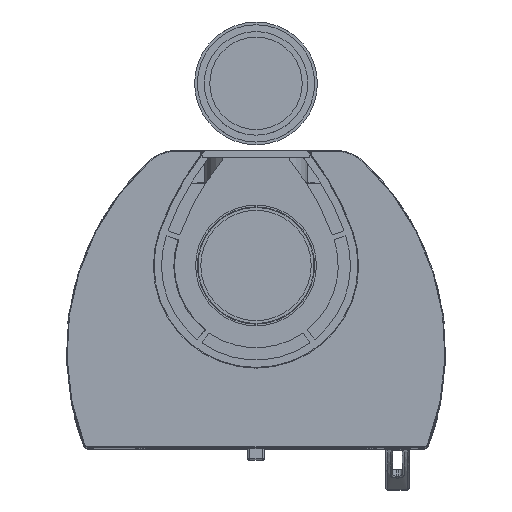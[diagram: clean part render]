
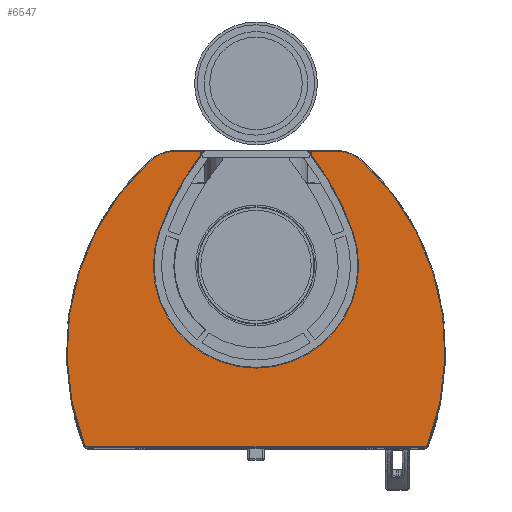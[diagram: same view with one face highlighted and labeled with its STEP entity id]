
A CAD part, top view. The second image highlights one B-rep face of the part: STEP entity #6547.
In plain terms, the highlighted planar face has unit normal (0, 0, 1).
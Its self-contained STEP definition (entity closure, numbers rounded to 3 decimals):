
#6547 = ADVANCED_FACE( '', ( #13175 ), #13176, .F. );
#13175 = FACE_OUTER_BOUND( '', #33344, .T. );
#13176 = PLANE( '', #33345 );
#33344 = EDGE_LOOP( '', ( #53689, #53690, #53691, #53692, #53693, #53694, #53695, #53696, #53697, #53698, #53699, #53700, #53701, #53702, #53703, #53704, #53705, #53706 ) );
#33345 = AXIS2_PLACEMENT_3D( '', #53707, #53708, #53709 );
#53689 = ORIENTED_EDGE( '', *, *, #57768, .T. );
#53690 = ORIENTED_EDGE( '', *, *, #59710, .T. );
#53691 = ORIENTED_EDGE( '', *, *, #61371, .T. );
#53692 = ORIENTED_EDGE( '', *, *, #58873, .T. );
#53693 = ORIENTED_EDGE( '', *, *, #61090, .T. );
#53694 = ORIENTED_EDGE( '', *, *, #60950, .T. );
#53695 = ORIENTED_EDGE( '', *, *, #58419, .T. );
#53696 = ORIENTED_EDGE( '', *, *, #56259, .T. );
#53697 = ORIENTED_EDGE( '', *, *, #61354, .T. );
#53698 = ORIENTED_EDGE( '', *, *, #58698, .T. );
#53699 = ORIENTED_EDGE( '', *, *, #59802, .T. );
#53700 = ORIENTED_EDGE( '', *, *, #57282, .T. );
#53701 = ORIENTED_EDGE( '', *, *, #56220, .T. );
#53702 = ORIENTED_EDGE( '', *, *, #59911, .T. );
#53703 = ORIENTED_EDGE( '', *, *, #61184, .T. );
#53704 = ORIENTED_EDGE( '', *, *, #56542, .T. );
#53705 = ORIENTED_EDGE( '', *, *, #55120, .T. );
#53706 = ORIENTED_EDGE( '', *, *, #59236, .T. );
#53707 = CARTESIAN_POINT( '', ( -243.81, -524., 1600. ) );
#53708 = DIRECTION( '', ( 0., 0., -1. ) );
#53709 = DIRECTION( '', ( -1., 0., 0. ) );
#55120 = EDGE_CURVE( '', #63155, #63160, #63162, .T. );
#56220 = EDGE_CURVE( '', #64985, #64989, #64991, .F. );
#56259 = EDGE_CURVE( '', #65054, #65052, #65055, .F. );
#56542 = EDGE_CURVE( '', #65507, #63155, #65511, .F. );
#57282 = EDGE_CURVE( '', #66649, #64985, #66651, .F. );
#57768 = EDGE_CURVE( '', #67384, #67388, #67390, .T. );
#58419 = EDGE_CURVE( '', #68327, #65054, #68328, .F. );
#58698 = EDGE_CURVE( '', #68699, #68697, #68700, .F. );
#58873 = EDGE_CURVE( '', #68933, #68931, #68934, .F. );
#59236 = EDGE_CURVE( '', #63160, #67384, #69402, .T. );
#59710 = EDGE_CURVE( '', #67388, #70003, #70005, .F. );
#59802 = EDGE_CURVE( '', #68697, #66649, #70122, .F. );
#59911 = EDGE_CURVE( '', #64989, #70250, #70252, .F. );
#60950 = EDGE_CURVE( '', #71452, #68327, #71453, .F. );
#61090 = EDGE_CURVE( '', #68931, #71452, #71600, .F. );
#61184 = EDGE_CURVE( '', #70250, #65507, #71695, .F. );
#61354 = EDGE_CURVE( '', #65052, #68699, #71863, .F. );
#61371 = EDGE_CURVE( '', #70003, #68933, #71880, .F. );
#63155 = VERTEX_POINT( '', #77840 );
#63160 = VERTEX_POINT( '', #77845 );
#63162 = CIRCLE( '', #77847, 402. );
#64985 = VERTEX_POINT( '', #84133 );
#64989 = VERTEX_POINT( '', #84138 );
#64991 = LINE( '', #84140, #84141 );
#65052 = VERTEX_POINT( '', #84218 );
#65054 = VERTEX_POINT( '', #84220 );
#65055 = CIRCLE( '', #84221, 5. );
#65507 = VERTEX_POINT( '', #85870 );
#65511 = CIRCLE( '', #85874, 4. );
#66649 = VERTEX_POINT( '', #89396 );
#66651 = CIRCLE( '', #89398, 59. );
#67384 = VERTEX_POINT( '', #92082 );
#67388 = VERTEX_POINT( '', #92086 );
#67390 = CIRCLE( '', #92088, 402. );
#68327 = VERTEX_POINT( '', #95013 );
#68328 = CIRCLE( '', #95014, 374. );
#68697 = VERTEX_POINT( '', #96520 );
#68699 = VERTEX_POINT( '', #96522 );
#68700 = CIRCLE( '', #96523, 5. );
#68931 = VERTEX_POINT( '', #97381 );
#68933 = VERTEX_POINT( '', #97383 );
#68934 = CIRCLE( '', #97384, 3. );
#69402 = CIRCLE( '', #98703, 148.719 );
#70003 = VERTEX_POINT( '', #100231 );
#70005 = CIRCLE( '', #100233, 4. );
#70122 = CIRCLE( '', #101146, 374. );
#70250 = VERTEX_POINT( '', #101444 );
#70252 = CIRCLE( '', #101446, 3. );
#71452 = VERTEX_POINT( '', #105831 );
#71453 = CIRCLE( '', #105832, 59. );
#71600 = LINE( '', #106227, #106228 );
#71695 = LINE( '', #106478, #106479 );
#71863 = LINE( '', #106898, #106899 );
#71880 = LINE( '', #106917, #106918 );
#77840 = CARTESIAN_POINT( '', ( 80.818, -107.02, 1600. ) );
#77845 = CARTESIAN_POINT( '', ( 140.308, -217.361, 1600. ) );
#77847 = AXIS2_PLACEMENT_3D( '', #108176, #108177, #108178 );
#84133 = CARTESIAN_POINT( '', ( 115.232, -101., 1600. ) );
#84138 = CARTESIAN_POINT( '', ( 83., -101., 1600. ) );
#84140 = CARTESIAN_POINT( '', ( 83., -101., 1600. ) );
#84141 = VECTOR( '', #109312, 1000. );
#84218 = CARTESIAN_POINT( '', ( -243.81, -529., 1600. ) );
#84220 = CARTESIAN_POINT( '', ( -248.468, -525.816, 1600. ) );
#84221 = AXIS2_PLACEMENT_3D( '', #109371, #109372, #109373 );
#85870 = CARTESIAN_POINT( '', ( 80., -104.596, 1600. ) );
#85874 = AXIS2_PLACEMENT_3D( '', #109737, #109738, #109739 );
#89396 = CARTESIAN_POINT( '', ( 155.546, -116.921, 1600. ) );
#89398 = AXIS2_PLACEMENT_3D( '', #110570, #110571, #110572 );
#92082 = CARTESIAN_POINT( '', ( -140.308, -217.361, 1600. ) );
#92086 = CARTESIAN_POINT( '', ( -80.818, -107.02, 1600. ) );
#92088 = AXIS2_PLACEMENT_3D( '', #111210, #111211, #111212 );
#95013 = CARTESIAN_POINT( '', ( -155.546, -116.921, 1600. ) );
#95014 = AXIS2_PLACEMENT_3D( '', #111924, #111925, #111926 );
#96520 = CARTESIAN_POINT( '', ( 248.468, -525.816, 1600. ) );
#96522 = CARTESIAN_POINT( '', ( 243.81, -529., 1600. ) );
#96523 = AXIS2_PLACEMENT_3D( '', #112200, #112201, #112202 );
#97381 = CARTESIAN_POINT( '', ( -83., -101., 1600. ) );
#97383 = CARTESIAN_POINT( '', ( -80., -104., 1600. ) );
#97384 = AXIS2_PLACEMENT_3D( '', #112388, #112389, #112390 );
#98703 = AXIS2_PLACEMENT_3D( '', #112849, #112850, #112851 );
#100231 = CARTESIAN_POINT( '', ( -80., -104.596, 1600. ) );
#100233 = AXIS2_PLACEMENT_3D( '', #113409, #113410, #113411 );
#101146 = AXIS2_PLACEMENT_3D( '', #113483, #113484, #113485 );
#101444 = CARTESIAN_POINT( '', ( 80., -104., 1600. ) );
#101446 = AXIS2_PLACEMENT_3D( '', #113577, #113578, #113579 );
#105831 = CARTESIAN_POINT( '', ( -115.232, -101., 1600. ) );
#105832 = AXIS2_PLACEMENT_3D( '', #114288, #114289, #114290 );
#106227 = CARTESIAN_POINT( '', ( -115.232, -101., 1600. ) );
#106228 = VECTOR( '', #114386, 1000. );
#106478 = CARTESIAN_POINT( '', ( 80., -104.596, 1600. ) );
#106479 = VECTOR( '', #114451, 1000. );
#106898 = CARTESIAN_POINT( '', ( 243.81, -529., 1600. ) );
#106899 = VECTOR( '', #114515, 1000. );
#106917 = CARTESIAN_POINT( '', ( -80., -104., 1600. ) );
#106918 = VECTOR( '', #114517, 1000. );
#108176 = CARTESIAN_POINT( '', ( -238.957, -350.634, 1600. ) );
#108177 = DIRECTION( '', ( 0., 0., -1. ) );
#108178 = DIRECTION( '', ( -1., 0., 0. ) );
#109312 = DIRECTION( '', ( 1., 0., 0. ) );
#109371 = CARTESIAN_POINT( '', ( -243.81, -524., 1600. ) );
#109372 = DIRECTION( '', ( 0., 0., -1. ) );
#109373 = DIRECTION( '', ( -1., 0., 0. ) );
#109737 = CARTESIAN_POINT( '', ( 84., -104.596, 1600. ) );
#109738 = DIRECTION( '', ( 0., 0., -1. ) );
#109739 = DIRECTION( '', ( -1., 0., 0. ) );
#110570 = CARTESIAN_POINT( '', ( 115.232, -160., 1600. ) );
#110571 = DIRECTION( '', ( 0., 0., -1. ) );
#110572 = DIRECTION( '', ( -1., 0., 0. ) );
#111210 = CARTESIAN_POINT( '', ( 238.957, -350.634, 1600. ) );
#111211 = DIRECTION( '', ( 0., 0., -1. ) );
#111212 = DIRECTION( '', ( -1., 0., 0. ) );
#111924 = CARTESIAN_POINT( '', ( 100., -390., 1600. ) );
#111925 = DIRECTION( '', ( 0., 0., -1. ) );
#111926 = DIRECTION( '', ( -1., 0., 0. ) );
#112200 = CARTESIAN_POINT( '', ( 243.81, -524., 1600. ) );
#112201 = DIRECTION( '', ( 0., 0., -1. ) );
#112202 = DIRECTION( '', ( -1., 0., 0. ) );
#112388 = CARTESIAN_POINT( '', ( -83., -104., 1600. ) );
#112389 = DIRECTION( '', ( 0., 0., -1. ) );
#112390 = DIRECTION( '', ( -1., 0., 0. ) );
#112849 = CARTESIAN_POINT( '', ( 0., -266.665, 1600. ) );
#112850 = DIRECTION( '', ( 0., 0., -1. ) );
#112851 = DIRECTION( '', ( -1., 0., 0. ) );
#113409 = CARTESIAN_POINT( '', ( -84., -104.596, 1600. ) );
#113410 = DIRECTION( '', ( 0., 0., -1. ) );
#113411 = DIRECTION( '', ( -1., 0., 0. ) );
#113483 = CARTESIAN_POINT( '', ( -100., -390., 1600. ) );
#113484 = DIRECTION( '', ( 0., 0., -1. ) );
#113485 = DIRECTION( '', ( -1., 0., 0. ) );
#113577 = CARTESIAN_POINT( '', ( 83., -104., 1600. ) );
#113578 = DIRECTION( '', ( 0., 0., -1. ) );
#113579 = DIRECTION( '', ( -1., 0., 0. ) );
#114288 = CARTESIAN_POINT( '', ( -115.232, -160., 1600. ) );
#114289 = DIRECTION( '', ( 0., 0., -1. ) );
#114290 = DIRECTION( '', ( -1., 0., 0. ) );
#114386 = DIRECTION( '', ( 1., 0., 0. ) );
#114451 = DIRECTION( '', ( 0., 1., 0. ) );
#114515 = DIRECTION( '', ( -1., 0., 0. ) );
#114517 = DIRECTION( '', ( 0., -1., 0. ) );
